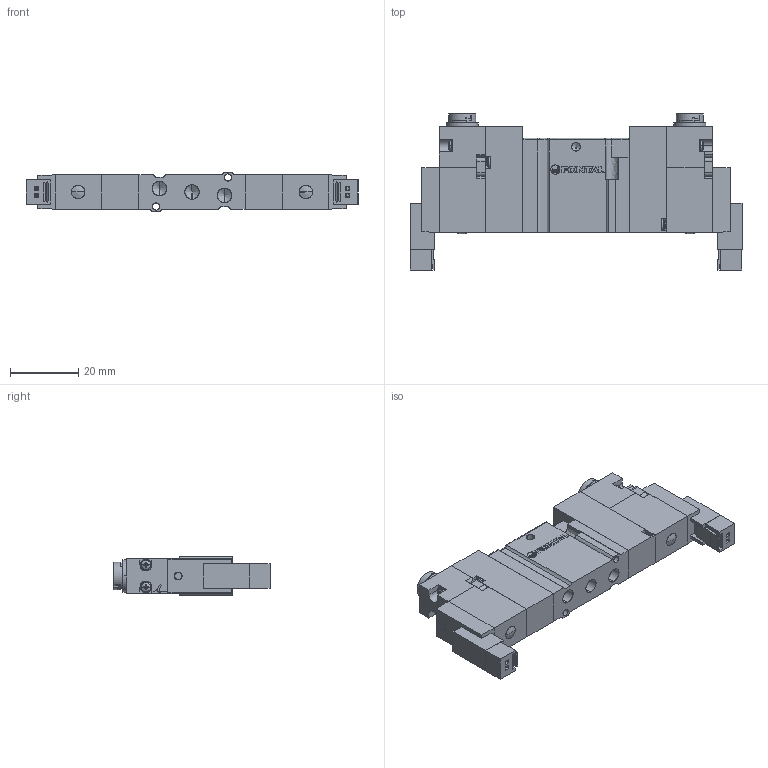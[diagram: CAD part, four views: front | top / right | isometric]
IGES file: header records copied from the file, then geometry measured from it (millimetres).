
Start section: SolidWorks IGES file using analytic representation for surfaces
Global section: file name: D:\Custom\3D繪製\ADEX\A05RS25\A05RD25#-#Q-#-E.IGS,1; native system: 5HSolidWorks 2014; preprocessor: SolidWorks 2014; author: Chieh_Lu; date: 150725.204358; units: millimetre
Bounding box: 97 x 45.6 x 11.4 mm (x, y, z)
Surface area: 16927.7 mm2 (no closed solid volume)
Topology: 0 solids, 0 shells, 1001 faces, 8260 edges, 8224 vertices
Faces by surface type: bspline 699, revolution 302
